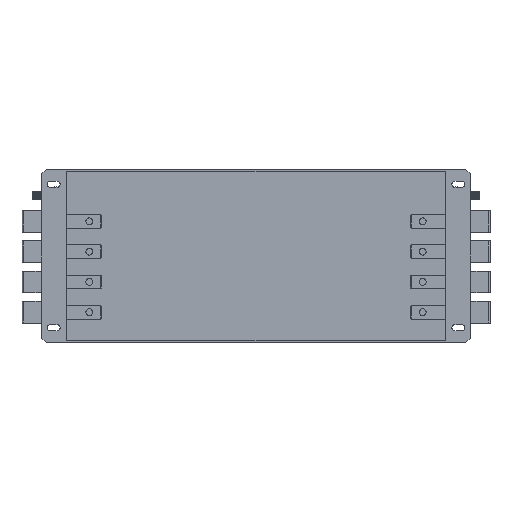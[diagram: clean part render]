
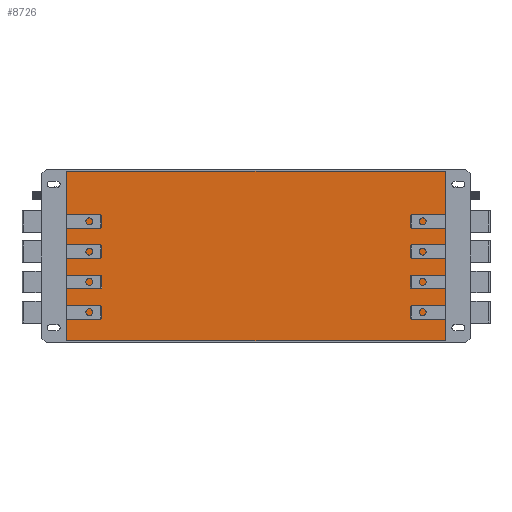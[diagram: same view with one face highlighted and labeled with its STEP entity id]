
A CAD part, front view. The second image highlights one B-rep face of the part: STEP entity #8726.
In plain terms, the highlighted planar face has unit normal (0, -1, 0).
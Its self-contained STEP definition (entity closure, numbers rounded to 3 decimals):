
#33 = EDGE_CURVE ( 'NONE', #1114, #848, #5302, .T. ) ;
#94 = VERTEX_POINT ( 'NONE', #5377 ) ;
#362 = VECTOR ( 'NONE', #6216, 1000. ) ;
#695 = VECTOR ( 'NONE', #9820, 1000. ) ;
#753 = DIRECTION ( 'NONE',  ( 0., 0., 1. ) ) ;
#848 = VERTEX_POINT ( 'NONE', #6479 ) ;
#853 = ORIENTED_EDGE ( 'NONE', *, *, #4932, .T. ) ;
#953 = CARTESIAN_POINT ( 'NONE',  ( 466., 157.5, 2. ) ) ;
#1114 = VERTEX_POINT ( 'NONE', #4442 ) ;
#1371 = LINE ( 'NONE', #5535, #3995 ) ;
#2001 = CARTESIAN_POINT ( 'NONE',  ( 27., 157.5, 198. ) ) ;
#2535 = FACE_OUTER_BOUND ( 'NONE', #10265, .T. ) ;
#2909 = CARTESIAN_POINT ( 'NONE',  ( 466., 157.5, 200. ) ) ;
#3816 = VERTEX_POINT ( 'NONE', #953 ) ;
#3877 = EDGE_CURVE ( 'NONE', #94, #848, #8669, .T. ) ;
#3995 = VECTOR ( 'NONE', #5681, 1000. ) ;
#4330 = CARTESIAN_POINT ( 'NONE',  ( 27., 157.5, 200. ) ) ;
#4395 = LINE ( 'NONE', #2909, #6035 ) ;
#4442 = CARTESIAN_POINT ( 'NONE',  ( 29., 157.5, 2. ) ) ;
#4618 = DIRECTION ( 'NONE',  ( 0., 0., 1. ) ) ;
#4932 = EDGE_CURVE ( 'NONE', #1114, #3816, #1371, .T. ) ;
#5061 = AXIS2_PLACEMENT_3D ( 'NONE', #4330, #6935, #753 ) ;
#5302 = LINE ( 'NONE', #8066, #362 ) ;
#5377 = CARTESIAN_POINT ( 'NONE',  ( 466., 157.5, 198. ) ) ;
#5535 = CARTESIAN_POINT ( 'NONE',  ( 27., 157.5, 2. ) ) ;
#5681 = DIRECTION ( 'NONE',  ( 1., 0., 0. ) ) ;
#6035 = VECTOR ( 'NONE', #4618, 1000. ) ;
#6048 = EDGE_CURVE ( 'NONE', #3816, #94, #4395, .T. ) ;
#6216 = DIRECTION ( 'NONE',  ( 0., 0., 1. ) ) ;
#6479 = CARTESIAN_POINT ( 'NONE',  ( 29., 157.5, 198. ) ) ;
#6935 = DIRECTION ( 'NONE',  ( 0., 1., 0. ) ) ;
#7992 = ORIENTED_EDGE ( 'NONE', *, *, #6048, .T. ) ;
#8066 = CARTESIAN_POINT ( 'NONE',  ( 29., 157.5, 0. ) ) ;
#8640 = PLANE ( 'NONE',  #5061 ) ;
#8669 = LINE ( 'NONE', #2001, #695 ) ;
#8726 = ADVANCED_FACE ( 'NONE', ( #2535 ), #8640, .F. ) ;
#9563 = ORIENTED_EDGE ( 'NONE', *, *, #3877, .T. ) ;
#9820 = DIRECTION ( 'NONE',  ( -1., 0., 0. ) ) ;
#10265 = EDGE_LOOP ( 'NONE', ( #7992, #9563, #10641, #853 ) ) ;
#10641 = ORIENTED_EDGE ( 'NONE', *, *, #33, .F. ) ;
